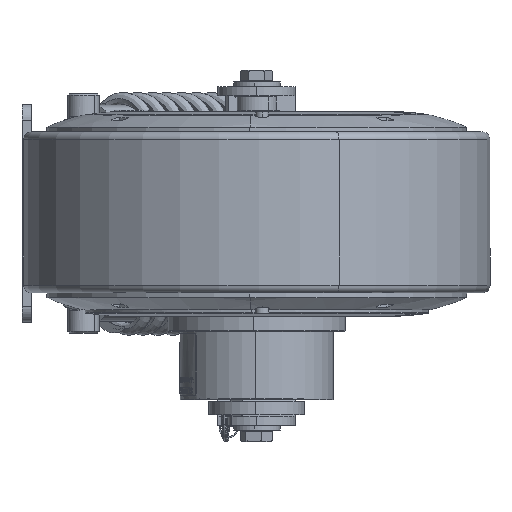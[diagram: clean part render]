
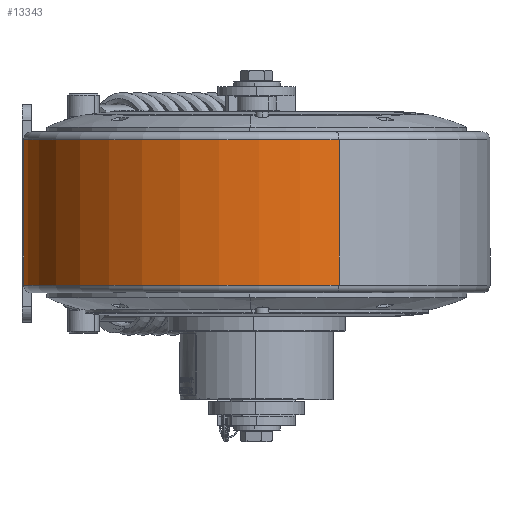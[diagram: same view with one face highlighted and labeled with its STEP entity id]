
A CAD part, left-side view. The second image highlights one B-rep face of the part: STEP entity #13343.
In plain terms, the highlighted cylindrical face has radius 150 mm (diameter 300 mm), a partial arc.
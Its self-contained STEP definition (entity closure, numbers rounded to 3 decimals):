
#1594 = LINE ( 'NONE', #15640, #47573 ) ;
#1934 = DIRECTION ( 'NONE',  ( -0.936, -0.353, 0. ) ) ;
#2734 = AXIS2_PLACEMENT_3D ( 'NONE', #70648, #79315, #1934 ) ;
#4831 = CARTESIAN_POINT ( 'NONE',  ( -195., 0., -34.2 ) ) ;
#5084 = EDGE_CURVE ( 'NONE', #26171, #49765, #1594, .T. ) ;
#10317 = ORIENTED_EDGE ( 'NONE', *, *, #80340, .T. ) ;
#13343 = ADVANCED_FACE ( 'NONE', ( #90894 ), #103008, .T. ) ;
#13497 = DIRECTION ( 'NONE',  ( -0.936, -0.353, 0. ) ) ;
#14035 = CIRCLE ( 'NONE', #97987, 150. ) ;
#15640 = CARTESIAN_POINT ( 'NONE',  ( -54.637, 52.897, -132.7 ) ) ;
#18564 = EDGE_CURVE ( 'NONE', #49765, #33072, #14035, .T. ) ;
#22340 = VECTOR ( 'NONE', #23152, 1000. ) ;
#23152 = DIRECTION ( 'NONE',  ( 0., 0., -1. ) ) ;
#24373 = DIRECTION ( 'NONE',  ( 0., 0., -1. ) ) ;
#26171 = VERTEX_POINT ( 'NONE', #87810 ) ;
#27965 = ORIENTED_EDGE ( 'NONE', *, *, #18564, .T. ) ;
#28132 = ORIENTED_EDGE ( 'NONE', *, *, #41501, .F. ) ;
#28601 = DIRECTION ( 'NONE',  ( 0., 0., 1. ) ) ;
#33072 = VERTEX_POINT ( 'NONE', #87574 ) ;
#39393 = CARTESIAN_POINT ( 'NONE',  ( -54.637, 52.897, -127.7 ) ) ;
#41501 = EDGE_CURVE ( 'NONE', #80558, #33072, #48042, .T. ) ;
#47573 = VECTOR ( 'NONE', #24373, 1000. ) ;
#48042 = LINE ( 'NONE', #100491, #22340 ) ;
#49765 = VERTEX_POINT ( 'NONE', #39393 ) ;
#65281 = DIRECTION ( 'NONE',  ( 0., 0., -1. ) ) ;
#65705 = CIRCLE ( 'NONE', #67548, 150. ) ;
#67548 = AXIS2_PLACEMENT_3D ( 'NONE', #4831, #65281, #13497 ) ;
#69566 = EDGE_LOOP ( 'NONE', ( #10317, #87812, #27965, #28132 ) ) ;
#70648 = CARTESIAN_POINT ( 'NONE',  ( -195., 0., -132.7 ) ) ;
#79315 = DIRECTION ( 'NONE',  ( 0., 0., -1. ) ) ;
#80281 = CARTESIAN_POINT ( 'NONE',  ( -195., 0., -127.7 ) ) ;
#80340 = EDGE_CURVE ( 'NONE', #80558, #26171, #65705, .T. ) ;
#80558 = VERTEX_POINT ( 'NONE', #86777 ) ;
#86777 = CARTESIAN_POINT ( 'NONE',  ( -335.363, -52.897, -34.2 ) ) ;
#87574 = CARTESIAN_POINT ( 'NONE',  ( -335.363, -52.897, -127.7 ) ) ;
#87810 = CARTESIAN_POINT ( 'NONE',  ( -54.637, 52.897, -34.2 ) ) ;
#87812 = ORIENTED_EDGE ( 'NONE', *, *, #5084, .T. ) ;
#88997 = DIRECTION ( 'NONE',  ( 0.936, 0.353, 0. ) ) ;
#90894 = FACE_OUTER_BOUND ( 'NONE', #69566, .T. ) ;
#97987 = AXIS2_PLACEMENT_3D ( 'NONE', #80281, #28601, #88997 ) ;
#100491 = CARTESIAN_POINT ( 'NONE',  ( -335.363, -52.897, -132.7 ) ) ;
#103008 = CYLINDRICAL_SURFACE ( 'NONE', #2734, 150. ) ;
